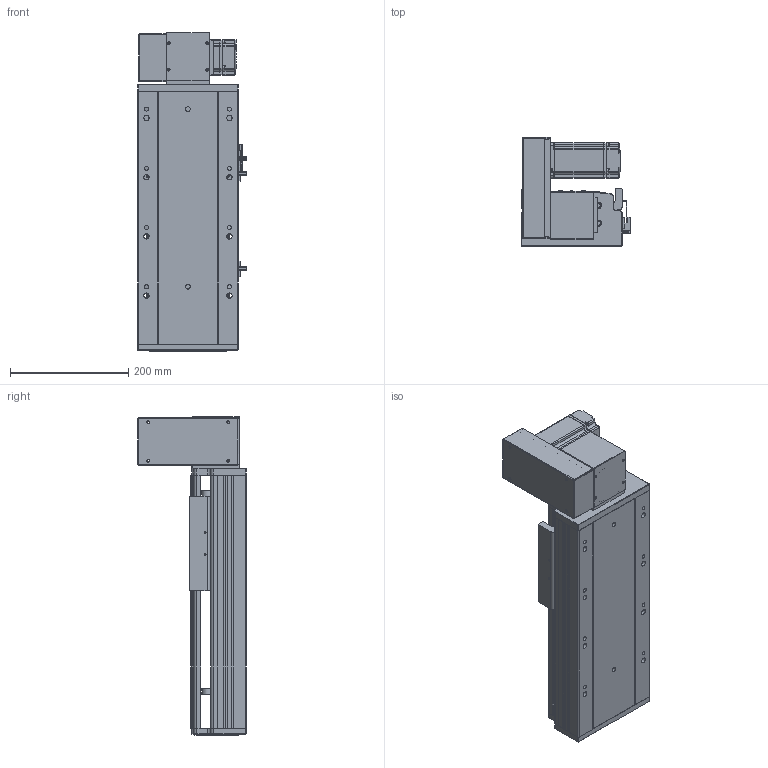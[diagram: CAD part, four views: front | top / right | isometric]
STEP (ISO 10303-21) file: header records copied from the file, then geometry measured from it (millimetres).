
FILE_DESCRIPTION (( 'STEP AP203' ), '1' );
FILE_NAME ('RY170-T-300-UL-P400W.SLDASM_150.step', '2021-03-02T02:11:49', ( '盈信电脑' ), ( '东莞市道滘镇水果街19号' ), 'SwSTEP 2.0', 'SolidWorks 2012', '' );
FILE_SCHEMA (( 'CONFIG_CONTROL_DESIGN' ));
Products named in the file (18): 15; RY170-T-300-UL-P400W.SLDASM_150; RY170同步轮电机安装板(400W); RY170肮祭謫萇儂欶; RY170-T蹟翐M4; RY120-T主同步轮轴承压盖; RY170-T肮祭湍揤踡輸2; RY170-T肮祭謫裔啣; 滅袉蝶18-10; RY170外置感应片(200共用）; RY170-T肮祭湍揤踡輸1; RY170翋肮祭謫釱; RY170肮祭謫ヶ裔啣; RY170肮祭湍臏賑輸; RY170綴裔啣; 覜茼ん672; RY170-T-300肮祭謫倰第裔啣-DL_150; RY170-T-300肮祭謫倰第菁釱-DL_150
Assembly tree (20 placements, depth 2):
  RY170-T-300-UL-P400W.SLDASM_150
    RY170-T-300肮祭謫倰第菁釱-DL_150
    RY170肮祭湍臏賑輸
    RY170-T-300肮祭謫倰第裔啣-DL_150
    RY170綴裔啣
    覜茼ん672  x3
    RY170外置感应片(200共用）
    RY170肮祭謫ヶ裔啣
    RY170翋肮祭謫釱
    RY170-T肮祭湍揤踡輸1
    RY170-T肮祭湍揤踡輸2
    RY170-T肮祭謫裔啣
    滅袉蝶18-10  x2
    RY120-T主同步轮轴承压盖
    RY170肮祭謫萇儂欶
    RY170同步轮电机安装板(400W)
    RY170-T蹟翐M4
    15
Bounding box: 183.7 x 184 x 538 mm (x, y, z)
Volume: 3334591.2 mm3; surface area: 1067850.4 mm2
Topology: 20 solids, 20 shells, 2361 faces, 6502 edges, 4193 vertices
Faces by surface type: plane 1139, cylinder 1012, cone 180, bspline 30
Entity records: 73832 total; most frequent: CARTESIAN_POINT 15657, ORIENTED_EDGE 11760, DIRECTION 11708, EDGE_CURVE 5880, AXIS2_PLACEMENT_3D 4066, VERTEX_POINT 3861, VECTOR 3576, LINE 3576
